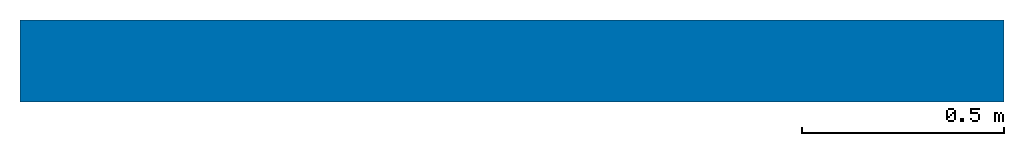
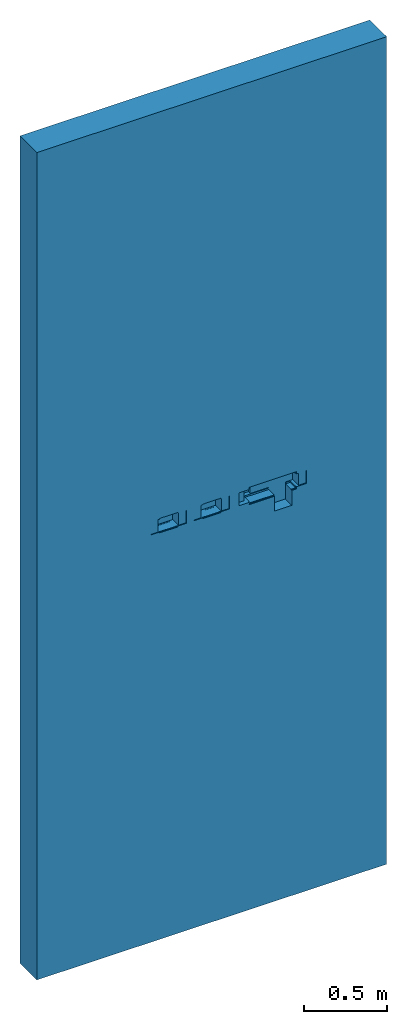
# One storey: 1 wall, 3 openings.
"""IFC2X3 building model written with IfcOpenShell, lengths in feet."""

from ifc_helpers import new_model, entity, si_unit, converted_unit, derived_unit, direction, frame, frame_2d, origin, place, context, subcontext, project, spatial, rectangle, extrude, faceted_brep, material, layer, layer_set, layer_usage, type_object, element, save


model = new_model("IFC2X3")

# Units and contexts
model_context = context("Model", 3, precision=0.0001, world=origin(), true_north=direction((6.12303176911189e-17, 1.0)))
body_context = subcontext(model_context, "Body", "Model", "MODEL_VIEW")
ifc_project = project(units=[converted_unit("LENGTHUNIT", "FOOT", entity("IfcRatioMeasure", 0.3048), si_unit("LENGTHUNIT", "METRE"), dimensions=[1, 0, 0, 0, 0, 0, 0]), converted_unit("AREAUNIT", "SQUARE FOOT", entity("IfcRatioMeasure", 0.09290304), si_unit("AREAUNIT", "SQUARE_METRE"), dimensions=[2, 0, 0, 0, 0, 0, 0]), converted_unit("VOLUMEUNIT", "CUBIC FOOT", entity("IfcRatioMeasure", 0.028316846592), si_unit("VOLUMEUNIT", "CUBIC_METRE"), dimensions=[3, 0, 0, 0, 0, 0, 0]), converted_unit("PLANEANGLEUNIT", "DEGREE", entity("IfcRatioMeasure", 0.0174532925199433), si_unit("PLANEANGLEUNIT", "RADIAN"), dimensions=[0, 0, 0, 0, 0, 0, 0]), si_unit("MASSUNIT", "GRAM", prefix="KILO"), derived_unit("MASSDENSITYUNIT", [(si_unit("MASSUNIT", "GRAM", prefix="KILO"), 1), (si_unit("LENGTHUNIT", "METRE"), -3)]), si_unit("TIMEUNIT", "SECOND"), si_unit("FREQUENCYUNIT", "HERTZ"), si_unit("THERMODYNAMICTEMPERATUREUNIT", "DEGREE_CELSIUS"), derived_unit("THERMALTRANSMITTANCEUNIT", [(si_unit("MASSUNIT", "GRAM", prefix="KILO"), 1), (si_unit("THERMODYNAMICTEMPERATUREUNIT", "KELVIN"), -1), (si_unit("TIMEUNIT", "SECOND"), -3)]), derived_unit("VOLUMETRICFLOWRATEUNIT", [(si_unit("LENGTHUNIT", "METRE"), 3), (si_unit("TIMEUNIT", "SECOND"), -1)]), si_unit("ELECTRICCURRENTUNIT", "AMPERE"), si_unit("ELECTRICVOLTAGEUNIT", "VOLT"), si_unit("POWERUNIT", "WATT"), si_unit("FORCEUNIT", "NEWTON"), si_unit("ILLUMINANCEUNIT", "LUX"), si_unit("LUMINOUSFLUXUNIT", "LUMEN"), si_unit("LUMINOUSINTENSITYUNIT", "CANDELA"), derived_unit("USERDEFINED", [(si_unit("MASSUNIT", "GRAM", prefix="KILO"), -1), (si_unit("LENGTHUNIT", "METRE"), -2), (si_unit("TIMEUNIT", "SECOND"), 3), (si_unit("LUMINOUSFLUXUNIT", "LUMEN"), 1)]), derived_unit("LINEARVELOCITYUNIT", [(si_unit("LENGTHUNIT", "METRE"), 1), (si_unit("TIMEUNIT", "SECOND"), -1)]), si_unit("PRESSUREUNIT", "PASCAL"), derived_unit("USERDEFINED", [(si_unit("LENGTHUNIT", "METRE"), -2), (si_unit("MASSUNIT", "GRAM", prefix="KILO"), 1), (si_unit("TIMEUNIT", "SECOND"), -2)])], contexts=[model_context])

# Site, building, storey
site_placement = place(None, origin())
site = spatial("IfcSite", under=ifc_project, at=site_placement, Name="Default", CompositionType="ELEMENT")
building_placement = place(site_placement, origin())
building = spatial("IfcBuilding", under=site, at=building_placement, CompositionType="ELEMENT")
storey_placement = place(building_placement, origin())
storey = spatial("IfcBuildingStorey", under=building, at=storey_placement, Name="Level 1", CompositionType="ELEMENT", Elevation=0.0)

# Wall, openings
ifc_material = material(Name="Default Wall")
ifc_layer = layer(ifc_material, 0.666666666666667)
ifc_layer_set = layer_set([ifc_layer], Name="Basic Wall:Generic - 8\"")
ifc_layer_usage = layer_usage(ifc_layer_set, "AXIS2", "NEGATIVE", 0.333333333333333)
wall_type = type_object("IfcWallType", Name="Basic Wall:Generic - 8\"", PredefinedType="STANDARD", material=ifc_layer_set)
wall_placement = place(storey_placement, frame((-8.04001682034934, 5.98917207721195, 0.0)))
wall = element("IfcWallStandardCase", 1, at=wall_placement, inside=storey, type_object=wall_type, material=ifc_layer_usage, Name="Basic Wall:Generic - 8\"", ObjectType="Basic Wall:Generic - 8\"", context=body_context, shape_type="SweptSolid", body=[
    extrude(rectangle(XDim=8.0, YDim=0.666666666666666, at=frame_2d((4.0, -1.94289029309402e-16), x_axis=(-1.0, 0.0))), origin(), (0.0, 0.0, 1.0), 20.0),
])
opening_1_placement = place(wall_placement, frame((4.62490438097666, -0.495756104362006, 9.432483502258)))
element("IfcOpeningElement", 2, at=opening_1_placement, cuts=wall, Name="Basic Wall:Generic - 8\"", ObjectType="Opening", context=body_context, shape_type="Brep", body=[
    faceted_brep([(0.0, 0.0, 0.411676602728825), (0.230120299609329, 0.0, 0.411676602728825), (0.230120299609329, 0.0, 0.357660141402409), (0.811326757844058, 0.0, 0.357660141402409), (0.811326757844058, 0.0, 0.0), (1.20502754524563, 0.0, 0.0), (1.20502754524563, 0.0, 0.357660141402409), (1.3115157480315, 0.0, 0.357660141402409), (1.3115157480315, 0.0, 0.411676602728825), (1.54527559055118, 0.0, 0.411676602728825), (1.54527559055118, 0.0, 0.723356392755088), (1.3115157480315, 0.0, 0.723356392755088), (1.3115157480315, 0.0, 0.777607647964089), (0.230120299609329, 0.0, 0.777607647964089), (0.230120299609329, 0.0, 0.723356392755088), (0.0, 0.0, 0.723356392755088), (0.0, 0.264107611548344, 0.411676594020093), (0.172244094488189, 0.264107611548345, 0.411676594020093), (0.172244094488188, 0.493766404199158, 0.411676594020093), (0.401902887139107, 0.493766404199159, 0.411676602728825), (0.401902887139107, 0.418307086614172, 0.411676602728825), (0.811326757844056, 0.418307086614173, 0.411676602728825), (0.811326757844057, 0.401902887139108, 0.411676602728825), (0.244422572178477, 0.401902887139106, 0.411676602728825), (0.244422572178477, 0.188648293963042, 0.411676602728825), (0.230120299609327, 0.188648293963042, 0.411676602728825), (0.0, 0.264107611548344, 0.723356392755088), (0.230120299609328, 0.188648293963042, 0.723356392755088), (0.244422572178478, 0.188648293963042, 0.723356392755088), (0.244422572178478, 0.401902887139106, 0.723356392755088), (1.3008530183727, 0.401902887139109, 0.723356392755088), (1.3008530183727, 0.188648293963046, 0.723356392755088), (1.3115157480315, 0.188648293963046, 0.723356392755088), (1.54527559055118, 0.188648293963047, 0.723356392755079), (1.37303149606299, 0.188648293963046, 0.723356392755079), (1.37303149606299, 0.418307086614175, 0.723356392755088), (0.401902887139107, 0.418307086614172, 0.723356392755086), (0.401902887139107, 0.493766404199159, 0.723356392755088), (0.172244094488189, 0.493766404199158, 0.723356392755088), (0.17224409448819, 0.264107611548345, 0.723356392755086), (1.54527559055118, 0.188648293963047, 0.411676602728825), (1.37303149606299, 0.188648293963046, 0.411676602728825), (0.401902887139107, 0.493766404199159, 0.411676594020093), (1.37303149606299, 0.418307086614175, 0.411676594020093), (1.20502754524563, 0.418307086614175, 0.411676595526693), (1.20502754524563, 0.418307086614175, 0.0), (0.811326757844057, 0.418307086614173, 0.0), (0.811326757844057, 0.418307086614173, 0.411676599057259), (0.401902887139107, 0.418307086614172, 0.411676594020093), (1.3008530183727, 0.401902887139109, 0.760101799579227), (0.244422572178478, 0.401902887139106, 0.760101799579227), (0.244422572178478, 0.401902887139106, 0.374931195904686), (0.811326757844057, 0.401902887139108, 0.374931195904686), (0.811326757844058, 0.188648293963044, 0.374931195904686), (0.244422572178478, 0.188648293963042, 0.374931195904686), (0.244422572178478, 0.188648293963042, 0.760101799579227), (1.3008530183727, 0.188648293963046, 0.760101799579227), (1.3115157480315, 0.188648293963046, 0.777607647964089), (0.230120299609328, 0.188648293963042, 0.777607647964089), (0.230120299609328, 0.188648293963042, 0.357660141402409), (0.811326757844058, 0.188648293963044, 0.357660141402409), (1.3115157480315, 0.188648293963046, 0.357660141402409), (1.3115157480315, 0.188648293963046, 0.411676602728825), (1.20502754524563, 0.418307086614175, 0.411676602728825), (1.20502754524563, 0.401902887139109, 0.411676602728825), (1.20502754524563, 0.401902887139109, 0.374931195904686), (1.20502754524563, 0.188648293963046, 0.374931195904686), (1.20502754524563, 0.188648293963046, 0.357660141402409), (1.3008530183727, 0.188648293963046, 0.374931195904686), (1.3008530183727, 0.188648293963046, 0.411676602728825), (1.3008530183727, 0.401902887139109, 0.411676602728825), (1.3008530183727, 0.401902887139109, 0.374931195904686), (1.37303149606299, 0.418307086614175, 0.411676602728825)], [[[0, 1, 2, 3, 4, 5, 6, 7, 8, 9, 10, 11, 12, 13, 14, 15]], [[16, 17, 18, 19, 20, 21, 22, 23, 24, 25, 1, 0]], [[15, 26, 16, 0]], [[15, 14, 27, 28, 29, 30, 31, 32, 11, 10, 33, 34, 35, 36, 37, 38, 39, 26]], [[9, 40, 33, 10]], [[26, 39, 17, 16]], [[40, 41, 34, 33]], [[42, 18, 38, 37]], [[18, 17, 39, 38]], [[37, 36, 20, 42]], [[43, 44, 45, 46, 47, 48, 36, 35]], [[35, 34, 41, 43]], [[49, 30, 29, 50]], [[51, 52, 53, 54]], [[51, 54, 24, 23]], [[50, 55, 56, 49]], [[49, 56, 31, 30]], [[57, 32, 31, 56, 55, 28, 27, 58]], [[59, 60, 3, 2]], [[58, 27, 14, 13]], [[58, 13, 12, 57]], [[61, 62, 8, 7]], [[45, 5, 4, 46]], [[4, 3, 60, 53, 52, 22, 47, 46]], [[45, 63, 64, 65, 66, 67, 6, 5]], [[12, 11, 32, 57]], [[2, 1, 25, 59]], [[7, 6, 67, 61]], [[61, 67, 66, 68, 69, 62]], [[25, 24, 54, 53, 60, 59]], [[70, 69, 68, 71]], [[29, 28, 55, 50]], [[68, 66, 65, 71]], [[71, 65, 64, 70]], [[23, 22, 52, 51]], [[9, 8, 62, 69, 70, 64, 44, 72, 41, 40]]]),
])
opening_2_placement = place(wall_placement, frame((3.59809711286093, -0.495756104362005, 9.8235255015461)))
element("IfcOpeningElement", 3, at=opening_2_placement, cuts=wall, Name="Basic Wall:Generic - 8\"", ObjectType="Opening", context=body_context, shape_type="Brep", body=[
    faceted_brep([(0.0, 0.0, 0.0206346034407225), (0.19192913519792, 0.0, 0.0206346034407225), (0.19192913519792, 0.0, 0.0), (0.61187664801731, 0.0, 0.0), (0.61187664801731, 0.0, 0.0206346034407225), (0.803805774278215, 0.0, 0.0206346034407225), (0.803805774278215, 0.0, 0.332314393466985), (0.61187664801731, 0.0, 0.332314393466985), (0.61187664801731, 0.0, 0.354331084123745), (0.19192913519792, 0.0, 0.354331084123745), (0.19192913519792, 0.0, 0.332314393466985), (0.0, 0.0, 0.332314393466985), (0.0, 0.180446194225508, 0.0206345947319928), (0.170603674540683, 0.18044619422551, 0.0206345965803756), (0.170603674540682, 0.410104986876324, 0.0206345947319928), (0.403543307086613, 0.410104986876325, 0.0206345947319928), (0.633202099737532, 0.410104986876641, 0.0206346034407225), (0.633202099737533, 0.180446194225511, 0.0206346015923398), (0.803805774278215, 0.180446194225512, 0.0206346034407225), (0.611876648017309, 0.180457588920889, 0.0206346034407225), (0.561023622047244, 0.180457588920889, 0.0206346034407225), (0.561023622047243, 0.37729658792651, 0.0206346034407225), (0.242782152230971, 0.377296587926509, 0.0206346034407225), (0.242782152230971, 0.180457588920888, 0.0206346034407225), (0.19192913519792, 0.180457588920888, 0.0206346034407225), (0.0, 0.180446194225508, 0.332314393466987), (0.19192913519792, 0.180457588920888, 0.332314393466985), (0.24278215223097, 0.180457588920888, 0.332314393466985), (0.24278215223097, 0.377296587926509, 0.332314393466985), (0.561023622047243, 0.37729658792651, 0.332314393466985), (0.561023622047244, 0.180457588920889, 0.332314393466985), (0.611876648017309, 0.180457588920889, 0.332314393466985), (0.803805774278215, 0.180446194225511, 0.332314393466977), (0.633202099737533, 0.180446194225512, 0.332314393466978), (0.633202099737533, 0.410104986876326, 0.332314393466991), (0.403543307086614, 0.410104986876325, 0.332314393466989), (0.170603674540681, 0.410104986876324, 0.332314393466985), (0.170603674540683, 0.180446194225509, 0.332314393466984), (0.633202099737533, 0.410104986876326, 0.0206345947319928), (0.633202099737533, 0.180446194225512, 0.0206346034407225), (0.561023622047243, 0.37729658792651, 0.335595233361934), (0.242782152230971, 0.377296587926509, 0.335595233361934), (0.561023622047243, 0.377296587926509, 0.0174479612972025), (0.561023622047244, 0.180457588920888, 0.0174479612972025), (0.242782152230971, 0.180457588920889, 0.0174479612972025), (0.242782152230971, 0.377296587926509, 0.0174479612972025), (0.242782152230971, 0.180457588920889, 0.335595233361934), (0.561023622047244, 0.180457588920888, 0.335595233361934), (0.611876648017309, 0.180457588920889, 0.354331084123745), (0.19192913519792, 0.180457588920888, 0.354331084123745), (0.611876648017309, 0.180457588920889, 0.0), (0.19192913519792, 0.180457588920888, 0.0)], [[[0, 1, 2, 3, 4, 5, 6, 7, 8, 9, 10, 11]], [[12, 13, 14, 15, 16, 17, 18, 5, 4, 19, 20, 21, 22, 23, 24, 1, 0]], [[11, 25, 12, 0]], [[11, 10, 26, 27, 28, 29, 30, 31, 7, 6, 32, 33, 34, 35, 36, 37, 25]], [[5, 18, 32, 6]], [[18, 17, 33, 32]], [[36, 35, 34, 38, 15, 14]], [[14, 13, 37, 36]], [[34, 33, 39, 38]], [[40, 29, 28, 41]], [[42, 43, 44, 45]], [[45, 44, 23, 22]], [[41, 46, 47, 40]], [[40, 47, 30, 29]], [[48, 31, 30, 47, 46, 27, 26, 49]], [[50, 3, 2, 51]], [[49, 26, 10, 9]], [[49, 9, 8, 48]], [[50, 19, 4, 3]], [[8, 7, 31, 48]], [[2, 1, 24, 51]], [[51, 24, 23, 44, 43, 20, 19, 50]], [[21, 20, 43, 42]], [[28, 27, 46, 41]], [[45, 22, 21, 42]], [[25, 37, 13, 12]]]),
])
opening_3_placement = place(wall_placement, frame((2.61384514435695, -0.495756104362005, 9.8235255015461)))
element("IfcOpeningElement", 4, at=opening_3_placement, cuts=wall, Name="Basic Wall:Generic - 8\"", ObjectType="Opening", context=body_context, shape_type="Brep", body=[
    faceted_brep([(0.0, 0.0, 0.0206346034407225), (0.19192913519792, 0.0, 0.0206346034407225), (0.19192913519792, 0.0, 0.0), (0.61187664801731, 0.0, 0.0), (0.61187664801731, 0.0, 0.0206346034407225), (0.803805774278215, 0.0, 0.0206346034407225), (0.803805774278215, 0.0, 0.332314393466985), (0.61187664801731, 0.0, 0.332314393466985), (0.61187664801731, 0.0, 0.354331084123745), (0.19192913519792, 0.0, 0.354331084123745), (0.191929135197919, 0.0, 0.332314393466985), (0.0, 0.0, 0.332314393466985), (0.0, 0.180446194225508, 0.0206345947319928), (0.170603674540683, 0.18044619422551, 0.0206345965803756), (0.170603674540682, 0.410104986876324, 0.0206345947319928), (0.403543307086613, 0.410104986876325, 0.0206345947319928), (0.633202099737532, 0.410104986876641, 0.0206346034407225), (0.633202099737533, 0.180446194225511, 0.0206346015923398), (0.803805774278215, 0.180446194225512, 0.0206346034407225), (0.611876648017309, 0.180457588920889, 0.0206346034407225), (0.561023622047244, 0.180457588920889, 0.0206346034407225), (0.561023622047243, 0.37729658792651, 0.0206346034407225), (0.242782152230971, 0.377296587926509, 0.0206346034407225), (0.242782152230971, 0.180457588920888, 0.0206346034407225), (0.19192913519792, 0.180457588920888, 0.0206346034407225), (0.0, 0.180446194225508, 0.332314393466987), (0.191929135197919, 0.180457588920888, 0.332314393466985), (0.24278215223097, 0.180457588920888, 0.332314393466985), (0.24278215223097, 0.377296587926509, 0.332314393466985), (0.561023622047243, 0.37729658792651, 0.332314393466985), (0.561023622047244, 0.180457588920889, 0.332314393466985), (0.611876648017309, 0.180457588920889, 0.332314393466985), (0.803805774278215, 0.180446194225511, 0.332314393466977), (0.633202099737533, 0.180446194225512, 0.332314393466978), (0.633202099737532, 0.410104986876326, 0.332314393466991), (0.403543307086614, 0.410104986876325, 0.332314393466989), (0.170603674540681, 0.410104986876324, 0.332314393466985), (0.170603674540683, 0.180446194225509, 0.332314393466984), (0.633202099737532, 0.410104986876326, 0.0206345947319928), (0.633202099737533, 0.180446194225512, 0.0206346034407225), (0.561023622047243, 0.37729658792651, 0.335595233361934), (0.242782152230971, 0.377296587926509, 0.335595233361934), (0.561023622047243, 0.377296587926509, 0.0174479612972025), (0.561023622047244, 0.180457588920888, 0.0174479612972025), (0.242782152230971, 0.180457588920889, 0.0174479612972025), (0.242782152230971, 0.377296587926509, 0.0174479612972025), (0.242782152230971, 0.180457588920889, 0.335595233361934), (0.561023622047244, 0.180457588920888, 0.335595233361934), (0.611876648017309, 0.180457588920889, 0.354331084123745), (0.19192913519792, 0.180457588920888, 0.354331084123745), (0.611876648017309, 0.180457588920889, 0.0), (0.19192913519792, 0.180457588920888, 0.0)], [[[0, 1, 2, 3, 4, 5, 6, 7, 8, 9, 10, 11]], [[12, 13, 14, 15, 16, 17, 18, 5, 4, 19, 20, 21, 22, 23, 24, 1, 0]], [[11, 25, 12, 0]], [[11, 10, 26, 27, 28, 29, 30, 31, 7, 6, 32, 33, 34, 35, 36, 37, 25]], [[5, 18, 32, 6]], [[18, 17, 33, 32]], [[36, 35, 34, 38, 15, 14]], [[14, 13, 37, 36]], [[34, 33, 39, 38]], [[40, 29, 28, 41]], [[42, 43, 44, 45]], [[45, 44, 23, 22]], [[41, 46, 47, 40]], [[40, 47, 30, 29]], [[48, 31, 30, 47, 46, 27, 26, 49]], [[50, 3, 2, 51]], [[49, 26, 10, 9]], [[49, 9, 8, 48]], [[50, 19, 4, 3]], [[8, 7, 31, 48]], [[2, 1, 24, 51]], [[51, 24, 23, 44, 43, 20, 19, 50]], [[21, 20, 43, 42]], [[28, 27, 46, 41]], [[45, 22, 21, 42]], [[25, 37, 13, 12]]]),
])

save(model, "model.ifc")
